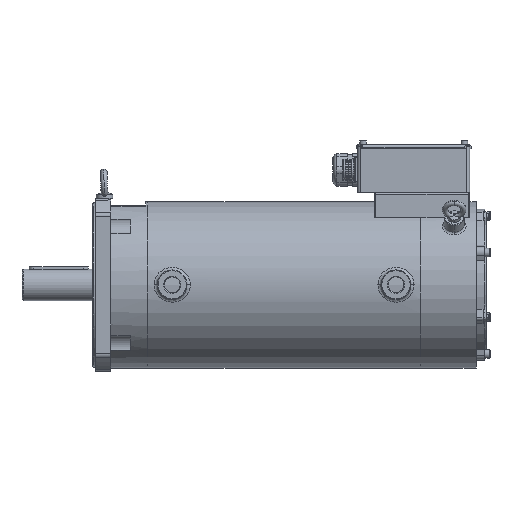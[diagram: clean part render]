
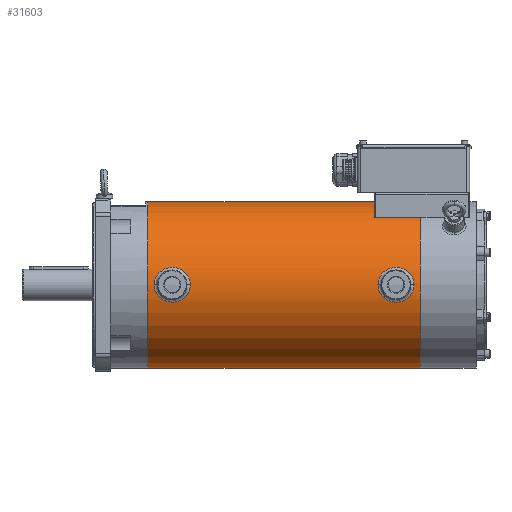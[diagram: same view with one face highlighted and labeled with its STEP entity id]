
A CAD part, top view. The second image highlights one B-rep face of the part: STEP entity #31603.
In plain terms, the highlighted cylindrical face has radius 126.5 mm (diameter 253 mm), a partial arc.
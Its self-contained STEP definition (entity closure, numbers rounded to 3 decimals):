
#24253=DIRECTION('',(-1.,0.,0.));
#24254=VECTOR('',#24253,414.5);
#24255=CARTESIAN_POINT('',(606.,126.5,
0.011));
#24256=LINE('',#24255,#24254);
#24338=CARTESIAN_POINT('',(606.,0.,
0.));
#24339=DIRECTION('',(1.,0.,0.));
#24340=DIRECTION('',(0.,1.,0.));
#24341=AXIS2_PLACEMENT_3D('',#24338,#24339,#24340);
#24343=DIRECTION('',(-1.,0.,0.));
#24344=VECTOR('',#24343,414.5);
#24345=CARTESIAN_POINT('',(606.,-126.5,
-0.011));
#24346=LINE('',#24345,#24344);
#24347=CARTESIAN_POINT('',(191.5,0.,
0.));
#24348=DIRECTION('',(-1.,0.,0.));
#24349=DIRECTION('',(0.,-1.,0.));
#24350=AXIS2_PLACEMENT_3D('',#24347,#24348,#24349);
#24352=CARTESIAN_POINT('',(541.5,-0.011,
126.5));
#24353=CARTESIAN_POINT('',(541.5,-1.847,
126.5));
#24354=CARTESIAN_POINT('',(541.89,-5.444,
126.42));
#24355=CARTESIAN_POINT('',(543.613,-10.669,
126.084));
#24356=CARTESIAN_POINT('',(546.47,-15.52,
125.572));
#24357=CARTESIAN_POINT('',(550.356,-19.728,124.972));
#24358=CARTESIAN_POINT('',(555.097,-23.066,
124.39));
#24359=CARTESIAN_POINT('',(560.455,-25.365,
123.935));
#24360=CARTESIAN_POINT('',(566.187,-26.526,
123.688));
#24361=CARTESIAN_POINT('',(572.048,-26.503,
123.693));
#24362=CARTESIAN_POINT('',(577.787,-25.289,
123.951));
#24363=CARTESIAN_POINT('',(583.124,-22.943,
124.414));
#24364=CARTESIAN_POINT('',(587.81,-19.571,
124.996));
#24365=CARTESIAN_POINT('',(591.572,-15.454,
125.58));
#24366=CARTESIAN_POINT('',(594.457,-10.546,
126.096));
#24367=CARTESIAN_POINT('',(596.17,-5.155,
126.432));
#24368=CARTESIAN_POINT('',(596.5,-1.724,
126.5));
#24369=CARTESIAN_POINT('',(596.5,-0.011,
126.5));
#24371=CARTESIAN_POINT('',(596.5,-0.011,
126.5));
#24372=CARTESIAN_POINT('',(596.5,1.825,126.5));
#24373=CARTESIAN_POINT('',(596.11,5.421,126.421));
#24374=CARTESIAN_POINT('',(594.387,10.647,126.086));
#24375=CARTESIAN_POINT('',(591.53,15.498,125.575));
#24376=CARTESIAN_POINT('',(587.644,19.706,124.975));
#24377=CARTESIAN_POINT('',(582.904,23.044,124.394));
#24378=CARTESIAN_POINT('',(577.545,25.343,123.939));
#24379=CARTESIAN_POINT('',(571.814,26.504,123.692));
#24380=CARTESIAN_POINT('',(565.952,26.481,123.697));
#24381=CARTESIAN_POINT('',(560.214,25.267,123.955));
#24382=CARTESIAN_POINT('',(554.876,22.921,124.418));
#24383=CARTESIAN_POINT('',(550.19,19.549,124.999));
#24384=CARTESIAN_POINT('',(546.428,15.433,125.582));
#24385=CARTESIAN_POINT('',(543.543,10.524,126.098));
#24386=CARTESIAN_POINT('',(541.831,5.134,126.433));
#24387=CARTESIAN_POINT('',(541.5,1.702,126.5));
#24388=CARTESIAN_POINT('',(541.5,-0.011,
126.5));
#24390=CARTESIAN_POINT('',(201.,-0.011,
126.5));
#24391=CARTESIAN_POINT('',(201.,-1.847,
126.5));
#24392=CARTESIAN_POINT('',(201.39,-5.444,
126.42));
#24393=CARTESIAN_POINT('',(203.113,-10.669,
126.084));
#24394=CARTESIAN_POINT('',(205.97,-15.52,
125.572));
#24395=CARTESIAN_POINT('',(209.856,-19.728,124.972));
#24396=CARTESIAN_POINT('',(214.597,-23.066,
124.39));
#24397=CARTESIAN_POINT('',(219.955,-25.365,
123.935));
#24398=CARTESIAN_POINT('',(225.687,-26.526,
123.688));
#24399=CARTESIAN_POINT('',(231.548,-26.503,
123.693));
#24400=CARTESIAN_POINT('',(237.287,-25.289,
123.951));
#24401=CARTESIAN_POINT('',(242.624,-22.943,
124.414));
#24402=CARTESIAN_POINT('',(247.31,-19.571,
124.996));
#24403=CARTESIAN_POINT('',(251.072,-15.454,
125.58));
#24404=CARTESIAN_POINT('',(253.957,-10.546,
126.096));
#24405=CARTESIAN_POINT('',(255.67,-5.155,
126.432));
#24406=CARTESIAN_POINT('',(256.,-1.724,
126.5));
#24407=CARTESIAN_POINT('',(256.,-0.011,
126.5));
#24409=CARTESIAN_POINT('',(256.,-0.011,
126.5));
#24410=CARTESIAN_POINT('',(256.,1.825,126.5));
#24411=CARTESIAN_POINT('',(255.61,5.421,126.421));
#24412=CARTESIAN_POINT('',(253.887,10.647,126.086));
#24413=CARTESIAN_POINT('',(251.03,15.498,125.575));
#24414=CARTESIAN_POINT('',(247.144,19.706,124.975));
#24415=CARTESIAN_POINT('',(242.404,23.044,124.394));
#24416=CARTESIAN_POINT('',(237.045,25.343,123.939));
#24417=CARTESIAN_POINT('',(231.314,26.504,123.692));
#24418=CARTESIAN_POINT('',(225.452,26.481,123.697));
#24419=CARTESIAN_POINT('',(219.714,25.267,123.955));
#24420=CARTESIAN_POINT('',(214.376,22.921,124.418));
#24421=CARTESIAN_POINT('',(209.69,19.549,124.999));
#24422=CARTESIAN_POINT('',(205.928,15.433,125.582));
#24423=CARTESIAN_POINT('',(203.043,10.524,126.098));
#24424=CARTESIAN_POINT('',(201.331,5.134,126.433));
#24425=CARTESIAN_POINT('',(201.,1.702,126.5));
#24426=CARTESIAN_POINT('',(201.,-0.011,
126.5));
#31177=CARTESIAN_POINT('',(606.,126.5,
0.011));
#31178=CARTESIAN_POINT('',(606.,-126.5,
-0.011));
#31179=VERTEX_POINT('',#31177);
#31180=VERTEX_POINT('',#31178);
#31181=CARTESIAN_POINT('',(191.5,126.5,
0.011));
#31182=CARTESIAN_POINT('',(191.5,-126.5,
-0.011));
#31183=VERTEX_POINT('',#31181);
#31184=VERTEX_POINT('',#31182);
#31510=VERTEX_POINT('',#24352);
#31511=VERTEX_POINT('',#24369);
#31514=VERTEX_POINT('',#24390);
#31515=VERTEX_POINT('',#24407);
#31578=CARTESIAN_POINT('',(606.,0.,
0.));
#31579=DIRECTION('',(-1.,0.,0.));
#31580=DIRECTION('',(0.,1.,0.));
#31581=AXIS2_PLACEMENT_3D('',#31578,#31579,#31580);
#31582=CYLINDRICAL_SURFACE('',#31581,126.5);
#31584=ORIENTED_EDGE('',*,*,#31583,.T.);
#31585=ORIENTED_EDGE('',*,*,#31561,.T.);
#31587=ORIENTED_EDGE('',*,*,#31586,.T.);
#31588=ORIENTED_EDGE('',*,*,#31557,.F.);
#31589=EDGE_LOOP('',(#31584,#31585,#31587,#31588));
#31590=FACE_OUTER_BOUND('',#31589,.F.);
#31592=ORIENTED_EDGE('',*,*,#31591,.T.);
#31594=ORIENTED_EDGE('',*,*,#31593,.T.);
#31595=EDGE_LOOP('',(#31592,#31594));
#31596=FACE_BOUND('',#31595,.F.);
#31598=ORIENTED_EDGE('',*,*,#31597,.T.);
#31600=ORIENTED_EDGE('',*,*,#31599,.T.);
#31601=EDGE_LOOP('',(#31598,#31600));
#31602=FACE_BOUND('',#31601,.F.);
#31603=ADVANCED_FACE('',(#31590,#31596,#31602),#31582,.T.);
#24342=CIRCLE('',#24341,126.5);
#24351=CIRCLE('',#24350,126.5);
#24370=B_SPLINE_CURVE_WITH_KNOTS('',3,(#24352,#24353,#24354,#24355,#24356,
#24357,#24358,#24359,#24360,#24361,#24362,#24363,#24364,#24365,#24366,#24367,
#24368,#24369),.UNSPECIFIED.,.F.,.F.,(4,1,1,1,1,1,1,1,1,1,1,1,1,1,1,4),(0.,
0.067,0.133,0.2,0.267,0.333,
0.4,0.467,0.533,0.6,0.667,
0.733,0.8,0.867,0.933,1.),
.UNSPECIFIED.);
#24389=B_SPLINE_CURVE_WITH_KNOTS('',3,(#24371,#24372,#24373,#24374,#24375,
#24376,#24377,#24378,#24379,#24380,#24381,#24382,#24383,#24384,#24385,#24386,
#24387,#24388),.UNSPECIFIED.,.F.,.F.,(4,1,1,1,1,1,1,1,1,1,1,1,1,1,1,4),(0.,
0.067,0.133,0.2,0.267,0.333,
0.4,0.467,0.533,0.6,0.667,
0.733,0.8,0.867,0.933,1.),
.UNSPECIFIED.);
#24408=B_SPLINE_CURVE_WITH_KNOTS('',3,(#24390,#24391,#24392,#24393,#24394,
#24395,#24396,#24397,#24398,#24399,#24400,#24401,#24402,#24403,#24404,#24405,
#24406,#24407),.UNSPECIFIED.,.F.,.F.,(4,1,1,1,1,1,1,1,1,1,1,1,1,1,1,4),(0.,
0.067,0.133,0.2,0.267,0.333,
0.4,0.467,0.533,0.6,0.667,
0.733,0.8,0.867,0.933,1.),
.UNSPECIFIED.);
#24427=B_SPLINE_CURVE_WITH_KNOTS('',3,(#24409,#24410,#24411,#24412,#24413,
#24414,#24415,#24416,#24417,#24418,#24419,#24420,#24421,#24422,#24423,#24424,
#24425,#24426),.UNSPECIFIED.,.F.,.F.,(4,1,1,1,1,1,1,1,1,1,1,1,1,1,1,4),(0.,
0.067,0.133,0.2,0.267,0.333,
0.4,0.467,0.533,0.6,0.667,
0.733,0.8,0.867,0.933,1.),
.UNSPECIFIED.);
#31557=EDGE_CURVE('',#31179,#31183,#24256,.T.);
#31561=EDGE_CURVE('',#31180,#31184,#24346,.T.);
#31583=EDGE_CURVE('',#31179,#31180,#24342,.T.);
#31586=EDGE_CURVE('',#31184,#31183,#24351,.T.);
#31591=EDGE_CURVE('',#31510,#31511,#24370,.T.);
#31593=EDGE_CURVE('',#31511,#31510,#24389,.T.);
#31597=EDGE_CURVE('',#31514,#31515,#24408,.T.);
#31599=EDGE_CURVE('',#31515,#31514,#24427,.T.);
